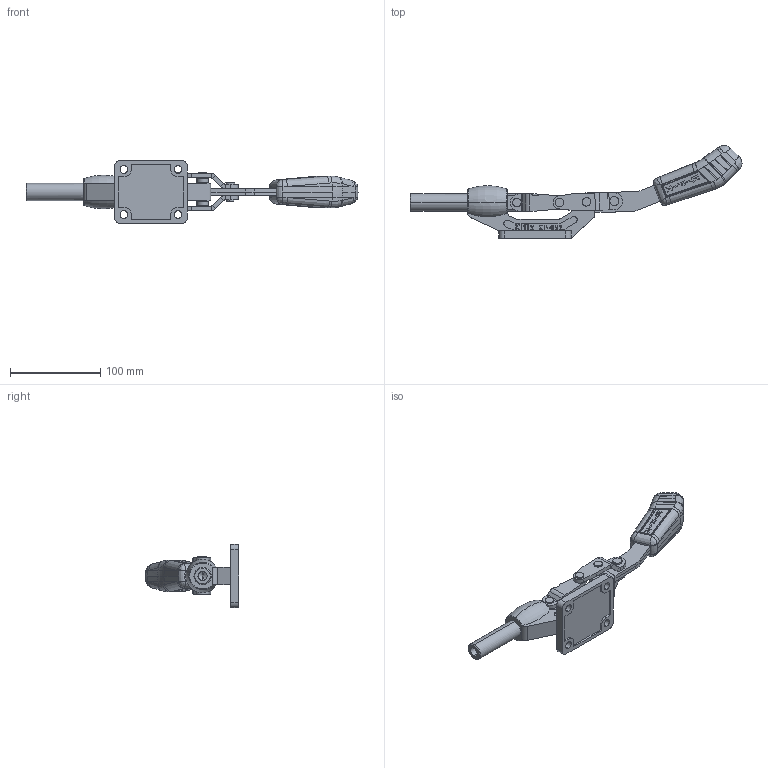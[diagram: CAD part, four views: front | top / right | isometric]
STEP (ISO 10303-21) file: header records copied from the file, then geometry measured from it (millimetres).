
FILE_DESCRIPTION (( 'STEP AP203' ), '1' );
FILE_NAME ('KF-052 IV.STEP', '2015-07-29T18:34:22', ( 'Ricardo' ), ( '' ), 'SwSTEP 2.0', 'SolidWorks 2014', '' );
FILE_SCHEMA (( 'CONFIG_CONTROL_DESIGN' ));
Length unit declared in the file: millimetre
Products named in the file (11): KF-052 IV; 03.20039; 08.10102; 08.10103; 05.20067; 07.60002; 3670000074; 3670000086; 02.30010; 3670000121; 01.10250
Assembly tree (15 placements, depth 2):
  KF-052 IV
    02.30010
    01.10250  x2
    03.20039
    08.10102  x2
    08.10103  x2
    05.20067  x2
    07.60002
    3670000074
    3670000086
    3670000121  x2
Bounding box: 367.58 x 102.98 x 70 mm (x, y, z)
Volume: 268891.3 mm3; surface area: 90866.6 mm2
Topology: 15 solids, 15 shells, 1036 faces, 2682 edges, 1716 vertices
Faces by surface type: plane 401, bspline 355, cylinder 196, sphere 52, cone 22, torus 10
Entity records: 41888 total; most frequent: CARTESIAN_POINT 20092, ORIENTED_EDGE 4894, DIRECTION 3196, EDGE_CURVE 2447, VERTEX_POINT 1578, LINE 1106, VECTOR 1106, AXIS2_PLACEMENT_3D 1045
